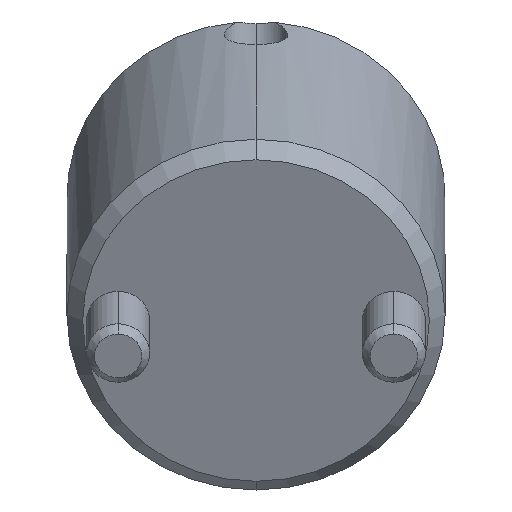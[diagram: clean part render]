
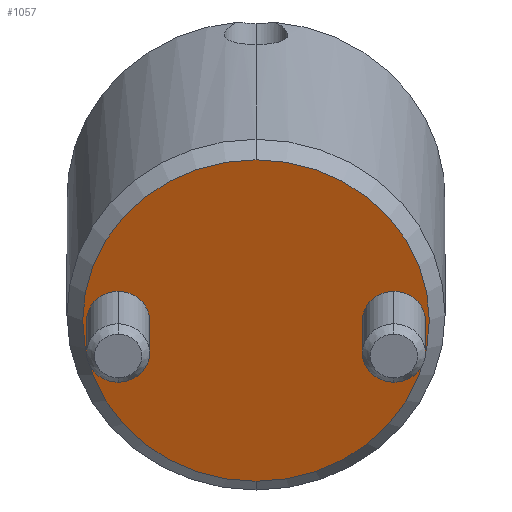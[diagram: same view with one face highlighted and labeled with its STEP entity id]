
A CAD part, front view. The second image highlights one B-rep face of the part: STEP entity #1057.
In plain terms, the highlighted planar face has unit normal (0, -0.927, -0.375) as drawn and (0, 0, -1) by its records, which use the part's own axes.
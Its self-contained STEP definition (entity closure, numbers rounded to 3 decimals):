
#31 = CARTESIAN_POINT ( 'NONE',  ( 2., -8.75, 0. ) ) ;
#101 = ORIENTED_EDGE ( 'NONE', *, *, #158, .F. ) ;
#134 = CARTESIAN_POINT ( 'NONE',  ( 0., 0., 0. ) ) ;
#158 = EDGE_CURVE ( 'NONE', #1028, #1333, #561, .T. ) ;
#174 = AXIS2_PLACEMENT_3D ( 'NONE', #674, #1052, #429 ) ;
#202 = DIRECTION ( 'NONE',  ( 1., 0., 0. ) ) ;
#227 = CARTESIAN_POINT ( 'NONE',  ( 0., 0., 0. ) ) ;
#243 = DIRECTION ( 'NONE',  ( 1., 0., 0. ) ) ;
#251 = CIRCLE ( 'NONE', #406, 2. ) ;
#303 = EDGE_CURVE ( 'NONE', #1237, #1562, #251, .T. ) ;
#316 = CIRCLE ( 'NONE', #1029, 2. ) ;
#338 = EDGE_CURVE ( 'NONE', #963, #1360, #316, .T. ) ;
#382 = FACE_BOUND ( 'NONE', #1038, .T. ) ;
#396 = ORIENTED_EDGE ( 'NONE', *, *, #842, .F. ) ;
#403 = EDGE_CURVE ( 'NONE', #1562, #1237, #1524, .T. ) ;
#406 = AXIS2_PLACEMENT_3D ( 'NONE', #916, #434, #810 ) ;
#429 = DIRECTION ( 'NONE',  ( -1., 0., 0. ) ) ;
#434 = DIRECTION ( 'NONE',  ( 0., 0., -1. ) ) ;
#496 = EDGE_LOOP ( 'NONE', ( #101, #1376 ) ) ;
#503 = EDGE_LOOP ( 'NONE', ( #1434, #676 ) ) ;
#509 = CARTESIAN_POINT ( 'NONE',  ( -11., 0., 0. ) ) ;
#561 = CIRCLE ( 'NONE', #688, 11. ) ;
#674 = CARTESIAN_POINT ( 'NONE',  ( 0., -8.75, 0. ) ) ;
#675 = FACE_BOUND ( 'NONE', #503, .T. ) ;
#676 = ORIENTED_EDGE ( 'NONE', *, *, #403, .F. ) ;
#688 = AXIS2_PLACEMENT_3D ( 'NONE', #1004, #887, #243 ) ;
#691 = DIRECTION ( 'NONE',  ( 0., 0., -1. ) ) ;
#692 = CARTESIAN_POINT ( 'NONE',  ( -2., 8.75, 0. ) ) ;
#732 = PLANE ( 'NONE',  #737 ) ;
#737 = AXIS2_PLACEMENT_3D ( 'NONE', #227, #1334, #202 ) ;
#767 = DIRECTION ( 'NONE',  ( 0., 0., -1. ) ) ;
#810 = DIRECTION ( 'NONE',  ( -1., 0., 0. ) ) ;
#842 = EDGE_CURVE ( 'NONE', #1360, #963, #1295, .T. ) ;
#887 = DIRECTION ( 'NONE',  ( 0., 0., 1. ) ) ;
#916 = CARTESIAN_POINT ( 'NONE',  ( 0., -8.75, 0. ) ) ;
#923 = AXIS2_PLACEMENT_3D ( 'NONE', #134, #1016, #1390 ) ;
#963 = VERTEX_POINT ( 'NONE', #692 ) ;
#1004 = CARTESIAN_POINT ( 'NONE',  ( 0., 0., 0. ) ) ;
#1007 = DIRECTION ( 'NONE',  ( -1., 0., 0. ) ) ;
#1010 = CARTESIAN_POINT ( 'NONE',  ( 0., 8.75, 0. ) ) ;
#1016 = DIRECTION ( 'NONE',  ( 0., 0., 1. ) ) ;
#1028 = VERTEX_POINT ( 'NONE', #1487 ) ;
#1029 = AXIS2_PLACEMENT_3D ( 'NONE', #1433, #691, #1553 ) ;
#1038 = EDGE_LOOP ( 'NONE', ( #1313, #396 ) ) ;
#1052 = DIRECTION ( 'NONE',  ( 0., 0., -1. ) ) ;
#1057 = ADVANCED_FACE ( 'NONE', ( #382, #675, #1155 ), #732, .F. ) ;
#1155 = FACE_OUTER_BOUND ( 'NONE', #496, .T. ) ;
#1232 = CIRCLE ( 'NONE', #923, 11. ) ;
#1237 = VERTEX_POINT ( 'NONE', #1247 ) ;
#1247 = CARTESIAN_POINT ( 'NONE',  ( -2., -8.75, 0. ) ) ;
#1295 = CIRCLE ( 'NONE', #1540, 2. ) ;
#1313 = ORIENTED_EDGE ( 'NONE', *, *, #338, .F. ) ;
#1333 = VERTEX_POINT ( 'NONE', #509 ) ;
#1334 = DIRECTION ( 'NONE',  ( 0., 0., 1. ) ) ;
#1360 = VERTEX_POINT ( 'NONE', #1488 ) ;
#1376 = ORIENTED_EDGE ( 'NONE', *, *, #1510, .F. ) ;
#1390 = DIRECTION ( 'NONE',  ( 1., 0., 0. ) ) ;
#1433 = CARTESIAN_POINT ( 'NONE',  ( 0., 8.75, 0. ) ) ;
#1434 = ORIENTED_EDGE ( 'NONE', *, *, #303, .F. ) ;
#1487 = CARTESIAN_POINT ( 'NONE',  ( 11., 0., 0. ) ) ;
#1488 = CARTESIAN_POINT ( 'NONE',  ( 2., 8.75, 0. ) ) ;
#1510 = EDGE_CURVE ( 'NONE', #1333, #1028, #1232, .T. ) ;
#1524 = CIRCLE ( 'NONE', #174, 2. ) ;
#1540 = AXIS2_PLACEMENT_3D ( 'NONE', #1010, #767, #1007 ) ;
#1553 = DIRECTION ( 'NONE',  ( -1., 0., 0. ) ) ;
#1562 = VERTEX_POINT ( 'NONE', #31 ) ;
